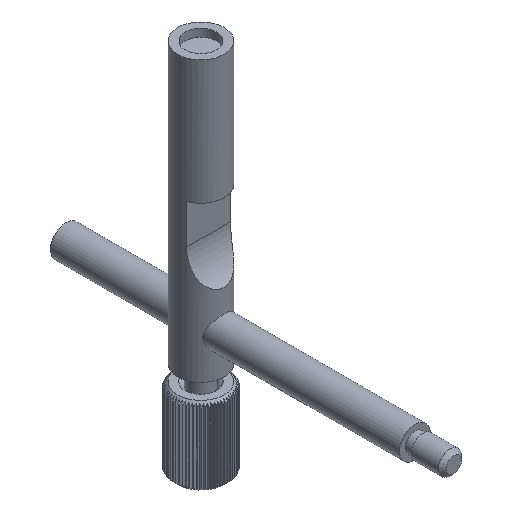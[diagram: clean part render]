
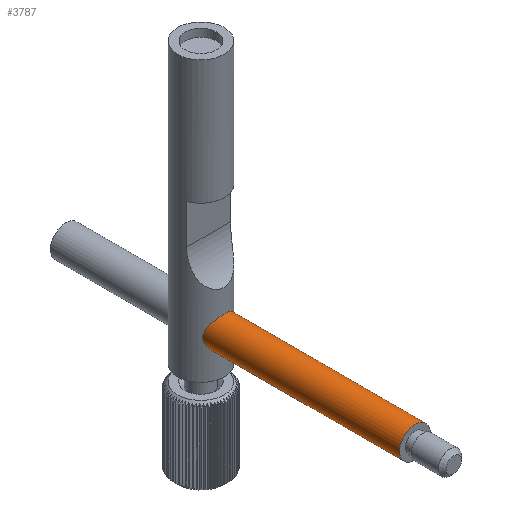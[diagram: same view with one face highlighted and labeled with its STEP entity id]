
A CAD part, isometric view. The second image highlights one B-rep face of the part: STEP entity #3787.
In plain terms, the highlighted cylindrical face has radius 2 mm (diameter 4 mm), a full revolution.
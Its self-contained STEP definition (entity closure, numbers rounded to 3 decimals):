
#260=B_SPLINE_CURVE_WITH_KNOTS('',3,(#5303,#5304,#5305,#5306,#5307,#5308,
#5309,#5310,#5311,#5312,#5313,#5314,#5315,#5316,#5317,#5318,#5319,#5320,
#5321,#5322,#5323,#5324,#5325,#5326,#5327,#5328),.UNSPECIFIED.,.F.,.F.,
(4,2,2,2,2,2,2,2,2,2,2,2,4),(0.,0.079,0.158,0.236,
0.314,0.392,0.47,0.549,
0.628,0.707,0.786,0.864,
0.939),.UNSPECIFIED.);
#261=B_SPLINE_CURVE_WITH_KNOTS('',3,(#5329,#5330,#5331,#5332,#5333,#5334,
#5335,#5336,#5337,#5338,#5339,#5340),.UNSPECIFIED.,.F.,.F.,(4,2,2,2,2,4),
(0.939,0.942,1.02,1.098,
1.177,1.256),.UNSPECIFIED.);
#277=CYLINDRICAL_SURFACE('',#4028,2.);
#355=FACE_OUTER_BOUND('',#565,.T.);
#565=EDGE_LOOP('',(#2328,#2329,#2330,#2331,#2332));
#763=CIRCLE('',#4017,2.);
#907=LINE('',#5402,#1106);
#1106=VECTOR('',#4418,2.);
#1305=VERTEX_POINT('',#5301);
#1306=VERTEX_POINT('',#5302);
#1311=VERTEX_POINT('',#5381);
#1699=EDGE_CURVE('',#1305,#1306,#260,.T.);
#1700=EDGE_CURVE('',#1306,#1305,#261,.T.);
#1707=EDGE_CURVE('',#1311,#1311,#763,.T.);
#1716=EDGE_CURVE('',#1311,#1306,#907,.T.);
#2328=ORIENTED_EDGE('',*,*,#1707,.T.);
#2329=ORIENTED_EDGE('',*,*,#1716,.T.);
#2330=ORIENTED_EDGE('',*,*,#1699,.F.);
#2331=ORIENTED_EDGE('',*,*,#1700,.F.);
#2332=ORIENTED_EDGE('',*,*,#1716,.F.);
#3787=ADVANCED_FACE('',(#355),#277,.T.);
#4017=AXIS2_PLACEMENT_3D('',#5382,#4391,#4392);
#4028=AXIS2_PLACEMENT_3D('',#5401,#4416,#4417);
#4391=DIRECTION('center_axis',(0.,1.,0.));
#4392=DIRECTION('ref_axis',(-0.015,0.,1.));
#4416=DIRECTION('center_axis',(0.,-1.,0.));
#4417=DIRECTION('ref_axis',(-0.015,0.,1.));
#4418=DIRECTION('',(0.,1.,0.));
#5301=CARTESIAN_POINT('',(-2.,-2.236,5.));
#5302=CARTESIAN_POINT('',(0.031,-3.,3.));
#5303=CARTESIAN_POINT('Ctrl Pts',(-2.,-2.236,5.));
#5304=CARTESIAN_POINT('Ctrl Pts',(-2.,-2.236,5.263));
#5305=CARTESIAN_POINT('Ctrl Pts',(-1.946,-2.287,5.533));
#5306=CARTESIAN_POINT('Ctrl Pts',(-1.74,-2.447,6.021));
#5307=CARTESIAN_POINT('Ctrl Pts',(-1.588,-2.553,6.24));
#5308=CARTESIAN_POINT('Ctrl Pts',(-1.242,-2.738,6.586));
#5309=CARTESIAN_POINT('Ctrl Pts',(-1.023,-2.832,6.739));
#5310=CARTESIAN_POINT('Ctrl Pts',(-0.532,-2.963,6.946));
#5311=CARTESIAN_POINT('Ctrl Pts',(-0.26,-3.,7.));
#5312=CARTESIAN_POINT('Ctrl Pts',(0.26,-3.,7.));
#5313=CARTESIAN_POINT('Ctrl Pts',(0.532,-2.963,6.946));
#5314=CARTESIAN_POINT('Ctrl Pts',(1.023,-2.832,6.739));
#5315=CARTESIAN_POINT('Ctrl Pts',(1.242,-2.738,6.586));
#5316=CARTESIAN_POINT('Ctrl Pts',(1.588,-2.553,6.24));
#5317=CARTESIAN_POINT('Ctrl Pts',(1.74,-2.447,6.021));
#5318=CARTESIAN_POINT('Ctrl Pts',(1.946,-2.287,5.533));
#5319=CARTESIAN_POINT('Ctrl Pts',(2.,-2.236,5.263));
#5320=CARTESIAN_POINT('Ctrl Pts',(2.,-2.236,4.737));
#5321=CARTESIAN_POINT('Ctrl Pts',(1.946,-2.287,4.467));
#5322=CARTESIAN_POINT('Ctrl Pts',(1.74,-2.447,3.979));
#5323=CARTESIAN_POINT('Ctrl Pts',(1.588,-2.553,3.76));
#5324=CARTESIAN_POINT('Ctrl Pts',(1.242,-2.738,3.414));
#5325=CARTESIAN_POINT('Ctrl Pts',(1.023,-2.832,3.261));
#5326=CARTESIAN_POINT('Ctrl Pts',(0.542,-2.961,3.058));
#5327=CARTESIAN_POINT('Ctrl Pts',(0.282,-2.997,3.004));
#5328=CARTESIAN_POINT('Ctrl Pts',(0.031,-3.,
3.));
#5329=CARTESIAN_POINT('Ctrl Pts',(0.031,-3.,
3.));
#5330=CARTESIAN_POINT('Ctrl Pts',(0.021,-3.,
3.));
#5331=CARTESIAN_POINT('Ctrl Pts',(0.01,-3.,3.));
#5332=CARTESIAN_POINT('Ctrl Pts',(-0.26,-3.,3.));
#5333=CARTESIAN_POINT('Ctrl Pts',(-0.532,-2.963,3.054));
#5334=CARTESIAN_POINT('Ctrl Pts',(-1.023,-2.832,3.261));
#5335=CARTESIAN_POINT('Ctrl Pts',(-1.242,-2.738,3.414));
#5336=CARTESIAN_POINT('Ctrl Pts',(-1.588,-2.553,3.76));
#5337=CARTESIAN_POINT('Ctrl Pts',(-1.74,-2.447,3.979));
#5338=CARTESIAN_POINT('Ctrl Pts',(-1.946,-2.287,4.467));
#5339=CARTESIAN_POINT('Ctrl Pts',(-2.,-2.236,4.737));
#5340=CARTESIAN_POINT('Ctrl Pts',(-2.,-2.236,5.));
#5381=CARTESIAN_POINT('',(0.031,-27.603,3.));
#5382=CARTESIAN_POINT('Origin',(0.,-27.603,
5.));
#5401=CARTESIAN_POINT('Origin',(0.,17.397,5.));
#5402=CARTESIAN_POINT('',(0.031,17.397,3.));
